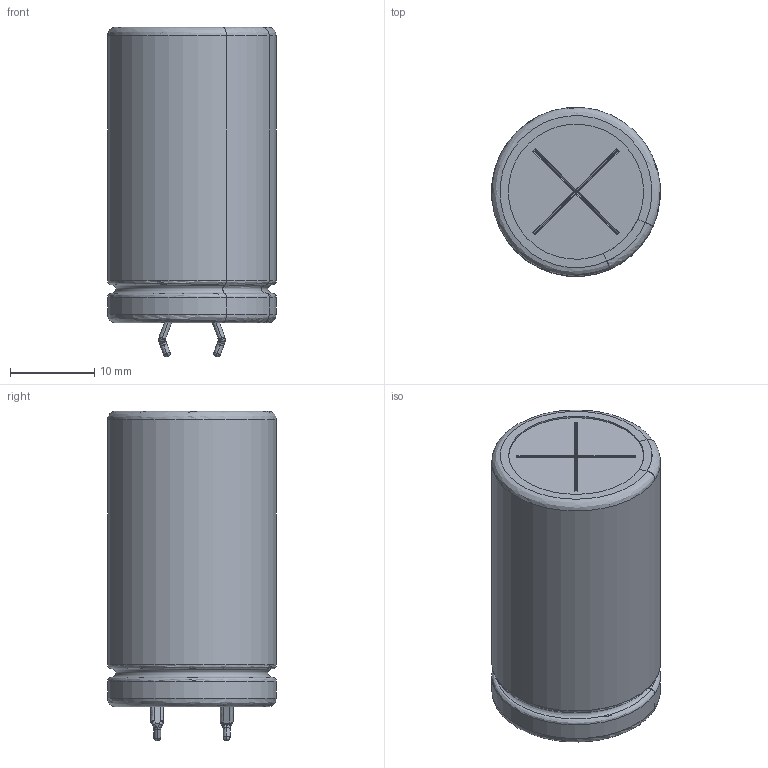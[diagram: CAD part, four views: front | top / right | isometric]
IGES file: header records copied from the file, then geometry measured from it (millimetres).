
Start section: JAMA-IS VERSION  1.0
Bounding box: 19.94 x 19.94 x 39.02 mm (x, y, z)
Surface area: 7770.4 mm2 (no closed solid volume)
Topology: 0 solids, 0 shells, 208 faces, 2162 edges, 2126 vertices
Faces by surface type: bspline 208
